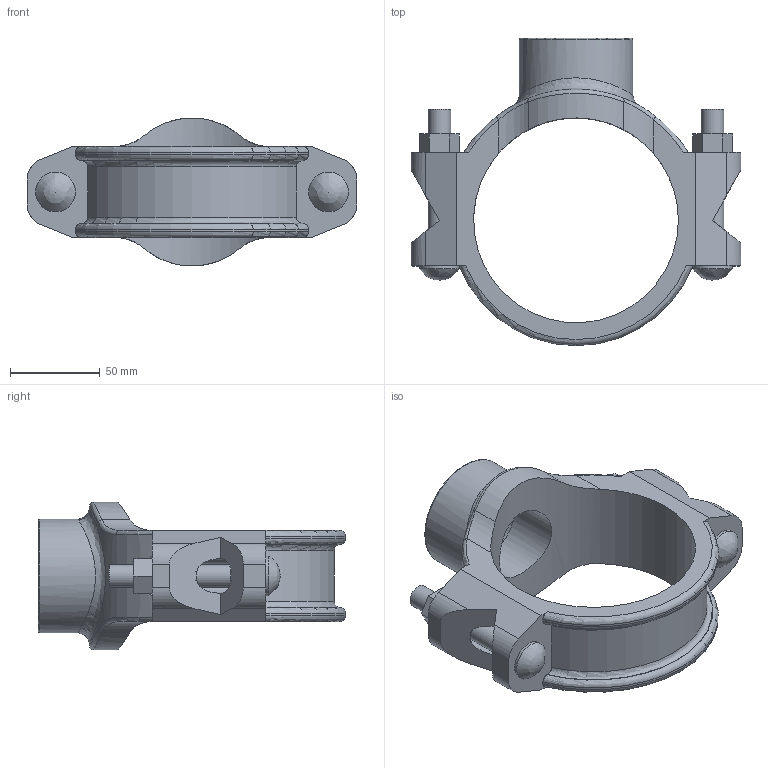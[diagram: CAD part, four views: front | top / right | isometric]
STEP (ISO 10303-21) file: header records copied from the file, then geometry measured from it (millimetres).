
FILE_DESCRIPTION(/* description */ ('VIC SS MECHANICAL T BRANCH OUTLET STYLE 422 (FPT)','CAx-IF Rec.Pracs.---Representation and Presentation of Product Manufacturing Information (PMI)---4.0---2014-10-13'),/* implementation_level */ '2;1');
FILE_NAME(/* name */ 'C:\Files for Export\422\STEP\Victaulic_SS-OGS_Mech-Tee Out_Style 422 (FPT)\Victaulic_SS-OGS_Mech-Tee Out_Style 422 (FPT)_04.0x01.5 (100x40).stp',/* time_stamp */ '2023-03-28T14:28:56+02:00',/* author */ ('jheald'),/* organization */ ('Victaulic'),/* preprocessor_version */ 'ST-DEVELOPER v18.1',/* originating_system */ 'Autodesk Inventor 2020',/* authorisation */ '');
FILE_SCHEMA (('AP242_MANAGED_MODEL_BASED_3D_ENGINEERING_MIM_LF { 1 0 10303 442 1 1 4 }'));
Length unit declared in the file: inch
Products named in the file (1): 422-04.0x01.5
Bounding box: 184.15 x 171.45 x 82.55 mm (x, y, z)
Volume: 402904.8 mm3; surface area: 87815.5 mm2
Topology: 1 solids, 1 shells, 102 faces, 296 edges, 196 vertices
Faces by surface type: plane 48, cylinder 34, torus 11, bspline 9
Full cylindrical faces by diameter (mm): 12.7 x4, 22.225 x2, 41.275 x1, 48.26 x1, 63.5 x1, 114.3 x1
Entity records: 4320 total; most frequent: CARTESIAN_POINT 1398, ORIENTED_EDGE 588, DIRECTION 572, EDGE_CURVE 294, AXIS2_PLACEMENT_3D 210, VERTEX_POINT 196, LINE 152, VECTOR 152
